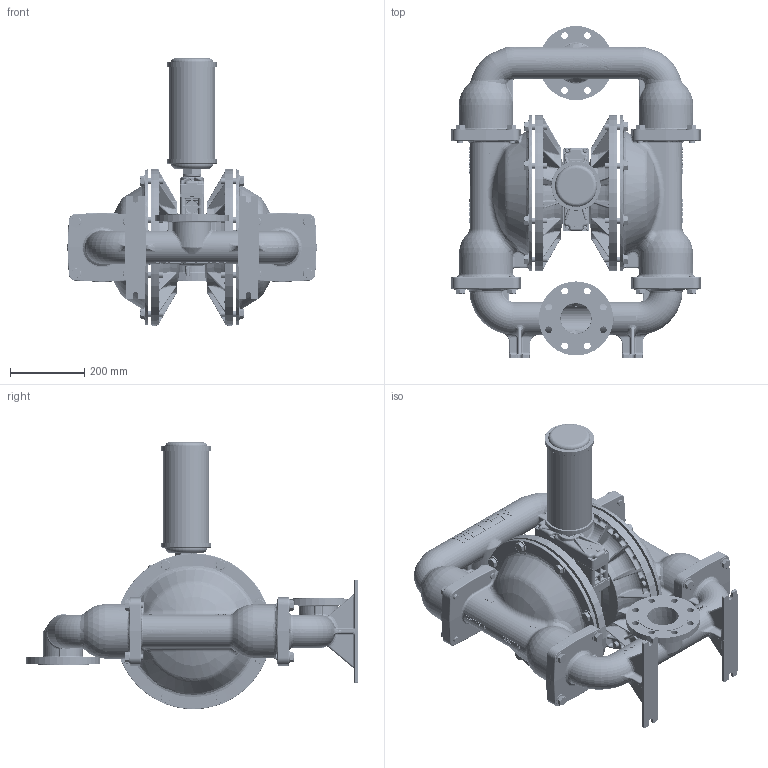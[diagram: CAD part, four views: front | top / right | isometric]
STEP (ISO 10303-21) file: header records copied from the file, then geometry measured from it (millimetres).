
FILE_DESCRIPTION((''),'2;1');
FILE_NAME('PS1530_DI_TOP_SW0002','2017-01-12T',('Nathan.hale'),(''),'PRO/ENGINEER BY PARAMETRIC TECHNOLOGY CORPORATION, 2015360','PRO/ENGINEER BY PARAMETRIC TECHNOLOGY CORPORATION, 2015360','');
FILE_SCHEMA(('CONFIG_CONTROL_DESIGN'));
Length unit declared in the file: inch
Products named in the file (1): PS1530_DI_TOP_SW0002
Bounding box: 672.77 x 895.6 x 721.03 mm (x, y, z)
Volume: 21286854.6 mm3; surface area: 4041307.4 mm2
Topology: 3 solids, 6 shells, 19024 faces, 48927 edges, 30600 vertices
Faces by surface type: plane 10766, bspline 3070, cylinder 1947, torus 1377, cone 1107, sphere 590, extrusion 167
Entity records: 1072556 total; most frequent: CARTESIAN_POINT 634593, ORIENTED_EDGE 97834, DIRECTION 81281, EDGE_CURVE 48917, VERTEX_POINT 30600, VECTOR 29029, LINE 28862, AXIS2_PLACEMENT_3D 26126
